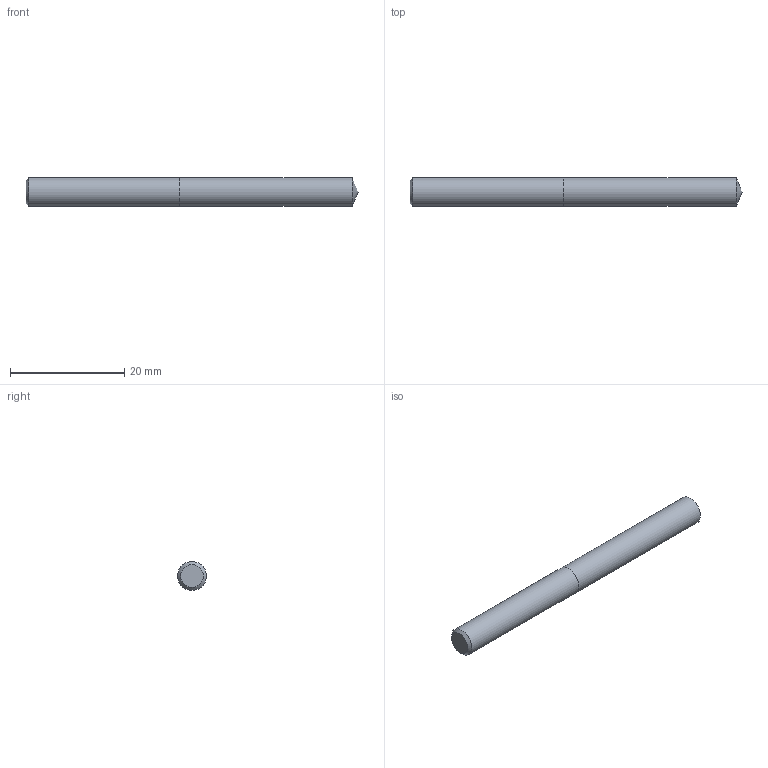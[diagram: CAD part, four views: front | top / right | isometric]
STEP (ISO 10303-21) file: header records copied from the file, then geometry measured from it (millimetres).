
FILE_DESCRIPTION (( 'STEP AP214' ), '1' );
FILE_NAME ('03-2350.STEP', '2022-06-03T06:34:52', ( 'USER' ), ( '' ), 'SwSTEP 2.0', 'SolidWorks 2018', '' );
FILE_SCHEMA (( 'AUTOMOTIVE_DESIGN' ));
Length unit declared in the file: inch
Products named in the file (1): 03-2350
Bounding box: 58.2 x 5.05 x 5.05 mm (x, y, z)
Volume: 1151.9 mm3; surface area: 984.4 mm2
Topology: 2 solids, 2 shells, 7 faces, 11 edges, 7 vertices
Faces by surface type: plane 3, cylinder 2, cone 2
Full cylindrical faces by diameter (mm): 5.055 x2
Entity records: 214 total; most frequent: DIRECTION 26, CARTESIAN_POINT 18, AXIS2_PLACEMENT_3D 13, EDGE_LOOP 10, ORIENTED_EDGE 10, FACE_OUTER_BOUND 9, ADVANCED_FACE 7, UNCERTAINTY_MEASURE_WITH_UNIT 7
